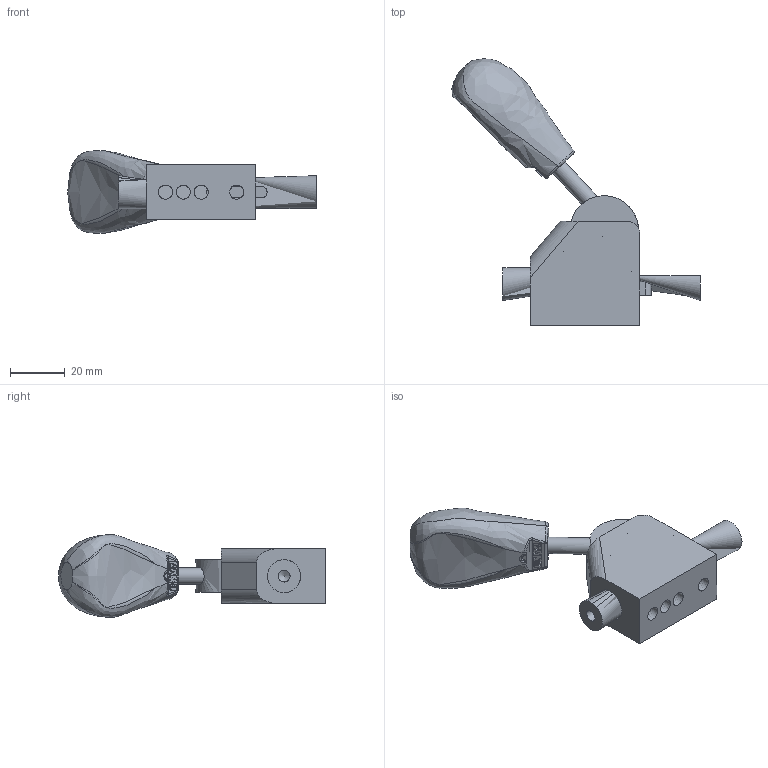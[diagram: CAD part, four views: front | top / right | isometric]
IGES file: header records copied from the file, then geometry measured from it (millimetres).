
Global section: file name: YSP-22ST-UNCLAMP; native system: Autodesk Inventor 2019; preprocessor: unknown; author: 桶田 勝弘,,  11,0; organization: 20171006.074515; date: 20240514.161220; units: millimetre
Bounding box: 90.7 x 97.25 x 30.18 mm (x, y, z)
Volume: 47734 mm3; surface area: 19201.7 mm2
Topology: 5 solids, 5 shells, 191 faces, 532 edges, 356 vertices
Faces by surface type: bspline 191
